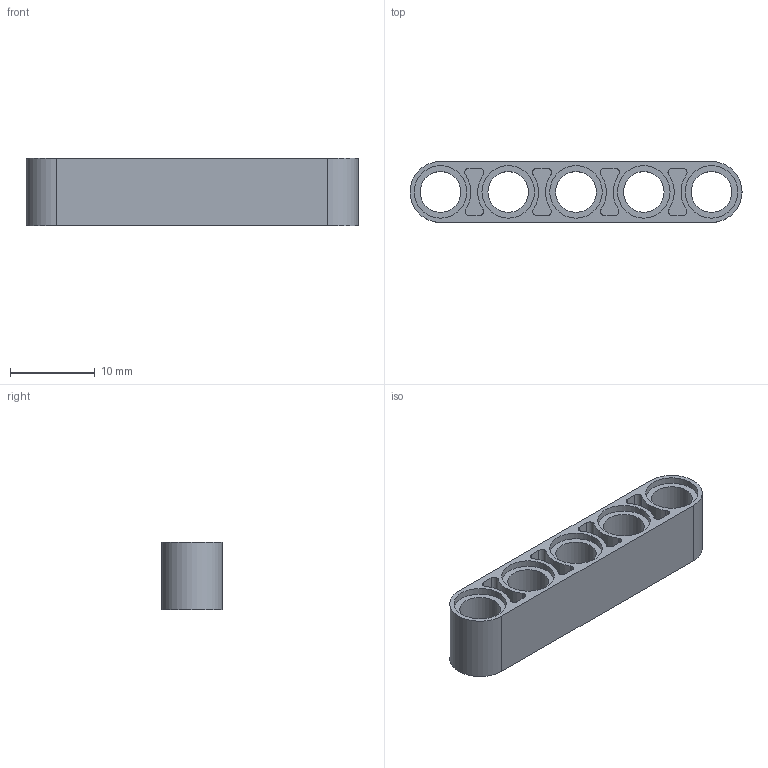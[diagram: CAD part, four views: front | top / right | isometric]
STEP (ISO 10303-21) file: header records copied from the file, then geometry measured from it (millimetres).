
FILE_DESCRIPTION(/* description */ ('Unknown'),/* implementation_level */ '2;1');
FILE_NAME(/* name */ 'Black_4142135_AVV',/* time_stamp */ '2025-07-21T23:45:51+02:00',/* author */ ('Unknown'),/* organization */ ('Unknown'),/* preprocessor_version */ 'ST-DEVELOPER v19.4',/* originating_system */ 'Solid Edge',/* authorisation */ 'Unknown');
FILE_SCHEMA (('AUTOMOTIVE_DESIGN {1 0 10303 214 3 1 1}'));
Length unit declared in the file: millimetre
Products named in the file (1): Black_4142135_AVV
Bounding box: 39.2 x 7.2 x 8 mm (x, y, z)
Volume: 1148.8 mm3; surface area: 2072.9 mm2
Topology: 1 solids, 1 shells, 103 faces, 249 edges, 166 vertices
Faces by surface type: cylinder 65, plane 38
Full cylindrical faces by diameter (mm): 4.8 x5, 6.2 x10
Entity records: 3048 total; most frequent: DIRECTION 572, CARTESIAN_POINT 504, ORIENTED_EDGE 468, EDGE_CURVE 234, AXIS2_PLACEMENT_3D 234, VERTEX_POINT 166, EDGE_LOOP 146, FACE_BOUND 146
